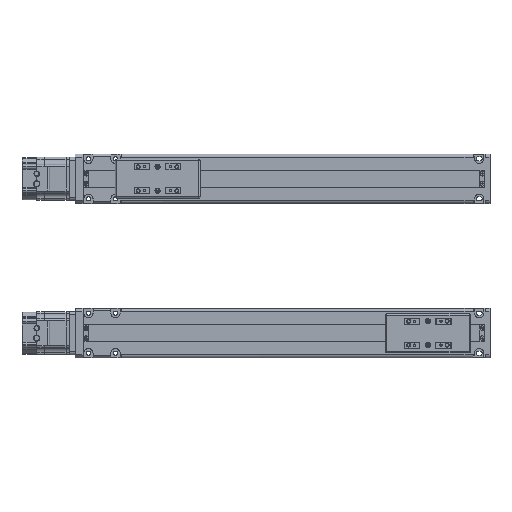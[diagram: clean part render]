
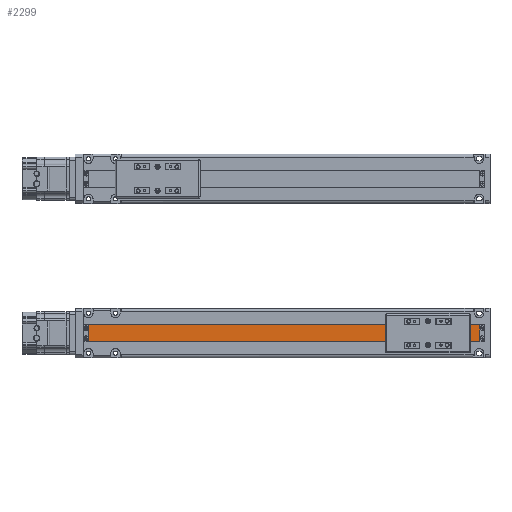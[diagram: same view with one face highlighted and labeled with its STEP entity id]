
A CAD part, top view. The second image highlights one B-rep face of the part: STEP entity #2299.
In plain terms, the highlighted planar face has unit normal (0, 0, 1).
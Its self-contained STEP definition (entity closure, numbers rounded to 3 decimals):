
#2299=ADVANCED_FACE('',(#5999),#6000,.T.);
#5999=FACE_OUTER_BOUND('',#11640,.T.);
#6000=PLANE('',#11641);
#11640=EDGE_LOOP('',(#20077,#20078,#20079,#20080));
#11641=AXIS2_PLACEMENT_3D('',#20081,#20082,#20083);
#20077=ORIENTED_EDGE('',*,*,#34207,.T.);
#20078=ORIENTED_EDGE('',*,*,#34757,.T.);
#20079=ORIENTED_EDGE('',*,*,#34758,.T.);
#20080=ORIENTED_EDGE('',*,*,#34759,.T.);
#20081=CARTESIAN_POINT('',(793.5,-190.0,19.1));
#20082=DIRECTION('',(-0.0,0.,1.0));
#20083=DIRECTION('',(1.0,0.0,0.0));
#34207=EDGE_CURVE('',#40809,#40807,#40810,.T.);
#34757=EDGE_CURVE('',#40807,#41765,#41766,.T.);
#34758=EDGE_CURVE('',#41765,#41767,#41768,.T.);
#34759=EDGE_CURVE('',#41767,#40809,#41769,.T.);
#40807=VERTEX_POINT('',#50174);
#40809=VERTEX_POINT('',#50177);
#40810=LINE('',#50178,#50179);
#41765=VERTEX_POINT('',#51481);
#41766=LINE('',#51482,#51483);
#41767=VERTEX_POINT('',#51484);
#41768=LINE('',#51485,#51486);
#41769=LINE('',#51487,#51488);
#50174=CARTESIAN_POINT('',(758.5,-179.0,19.1));
#50177=CARTESIAN_POINT('',(1265.5,-179.0,19.1));
#50178=CARTESIAN_POINT('',(1271.5,-179.0,19.1));
#50179=VECTOR('',#61938,1000.0);
#51481=CARTESIAN_POINT('',(758.5,-201.0,19.1));
#51482=CARTESIAN_POINT('',(758.5,-190.0,19.1));
#51483=VECTOR('',#62620,1000.0);
#51484=CARTESIAN_POINT('',(1265.5,-201.0,19.1));
#51485=CARTESIAN_POINT('',(753.5,-201.0,19.1));
#51486=VECTOR('',#62621,1000.0);
#51487=CARTESIAN_POINT('',(1265.5,-190.0,19.1));
#51488=VECTOR('',#62622,1000.0);
#61938=DIRECTION('',(-1.0,0.0,0.0));
#62620=DIRECTION('',(0.0,-1.0,0.));
#62621=DIRECTION('',(1.0,0.0,0.0));
#62622=DIRECTION('',(0.0,1.0,0.));
